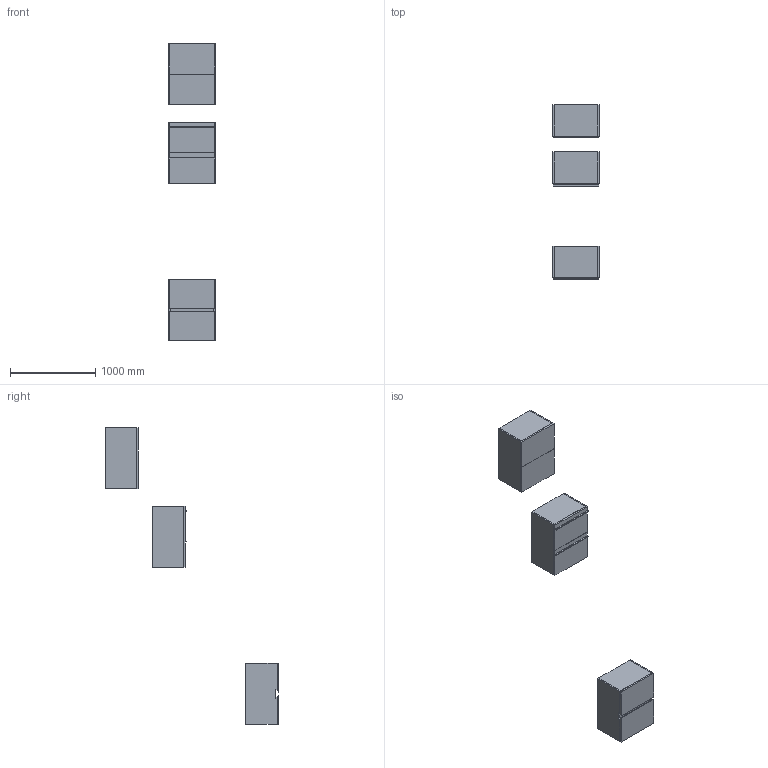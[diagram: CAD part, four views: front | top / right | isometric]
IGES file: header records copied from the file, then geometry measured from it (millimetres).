
Start section: Data from Parasolid IGES Translator 19.0.9, Copyright(c) 2006 Siemens PL M Software. All Rights Reserved.
Global section: file name: noorth-SI-H 72 D 38,8 W 54_8601.igs; native system: By Siemens PLM Incorporated; preprocessor: XPlus GENERIC/IGES 19.0.9; author: Noname; organization: Noname; date: 20200601.115449; units: metre
Bounding box: 540 x 2036 x 3480.32 mm (x, y, z)
Volume: 67901050.5 mm3; surface area: 10540826.1 mm2
Topology: 24 solids, 24 shells, 248 faces, 544 edges, 324 vertices
Faces by surface type: plane 164, extrusion 36, bspline 32, cylinder 16
